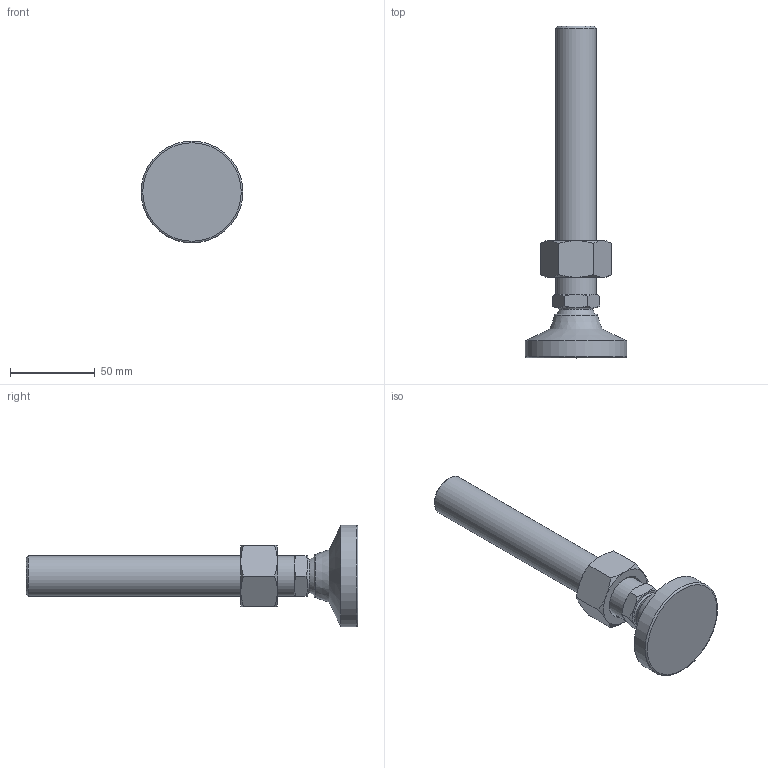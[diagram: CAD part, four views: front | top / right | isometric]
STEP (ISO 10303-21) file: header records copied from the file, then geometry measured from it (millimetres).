
FILE_DESCRIPTION( ( 'STEP AP214' ), ' ' );
FILE_NAME( 'O:/ganter_2015/teil_2/2_5/gn343_2/gn343_2_ks/Levelling foot with threaded stud GN 343.2-60-M24-158-KS-(0).stp', '2015-10-26T09:12:03', ( '' ), ( '' ), ' ', 'PARTsolutions', ' ' );
FILE_SCHEMA( ( 'AUTOMOTIVE_DESIGN { 1 0 10303 214 1 1 1 1 }' ) );
Length unit declared in the file: millimetre
Products named in the file (4): Levelling foot with threaded stud GN 343.2-60-M24-158-KS-(0); _Levelling foot with threaded stud GN 343.2-60-M24-158-KS-(0)_foot; _Gelenkfuss mit Schraube GN 343.2-60-M24-158-KS-(0)_screw; _GLevelling foot with threaded stud GN 343.2-60-M24-158-KS-(0)_nut
Assembly tree (3 placements, depth 2):
  Levelling foot with threaded stud GN 343.2-60-M24-158-KS-(0)
    _Levelling foot with threaded stud GN 343.2-60-M24-158-KS-(0)_foot
    _Gelenkfuss mit Schraube GN 343.2-60-M24-158-KS-(0)_screw
    _GLevelling foot with threaded stud GN 343.2-60-M24-158-KS-(0)_nut
Bounding box: 60 x 195.5 x 60 mm (x, y, z)
Volume: 138466.6 mm3; surface area: 28914.3 mm2
Topology: 3 solids, 3 shells, 55 faces, 116 edges, 67 vertices
Faces by surface type: cone 29, plane 18, torus 3, cylinder 3, sphere 2
Full cylindrical faces by diameter (mm): 20.752 x1, 24 x1, 60 x1
Entity records: 2078 total; most frequent: CARTESIAN_POINT 535, DIRECTION 208, ORIENTED_EDGE 198, EDGE_CURVE 99, AXIS2_PLACEMENT_3D 98, EDGE_LOOP 70, VERTEX_POINT 65, FACE_OUTER_BOUND 61
